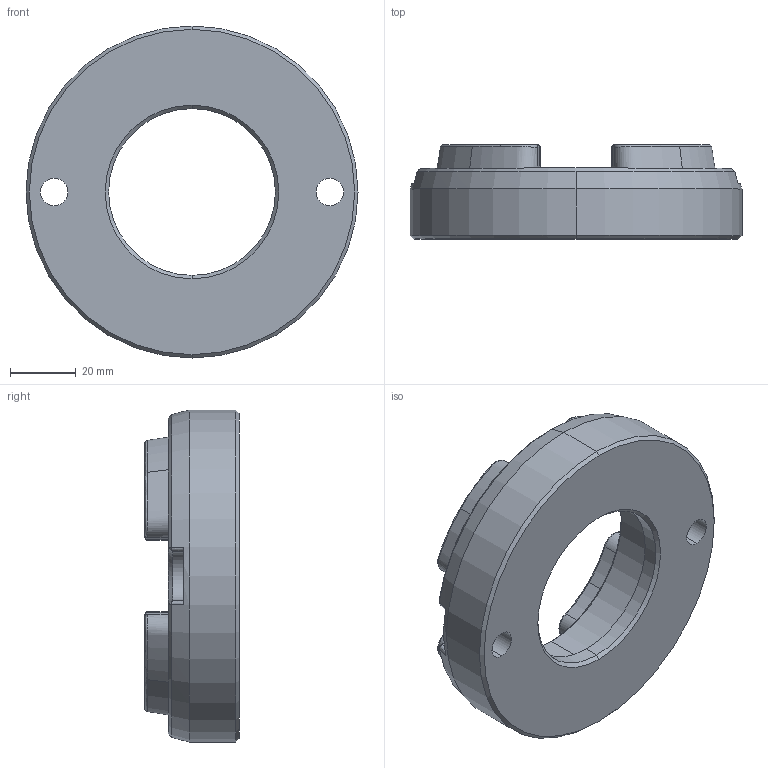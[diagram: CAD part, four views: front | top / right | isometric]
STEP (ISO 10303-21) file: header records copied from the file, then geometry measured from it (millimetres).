
FILE_DESCRIPTION (( 'STEP AP203' ), '1' );
FILE_NAME ('6521PG.STEP', '2020-03-19T12:29:59', ( '' ), ( '' ), 'SwSTEP 2.0', 'SolidWorks 2018', '' );
FILE_SCHEMA (( 'CONFIG_CONTROL_DESIGN' ));
Length unit declared in the file: inch
Products named in the file (1): 6521PG
Bounding box: 101.35 x 28.7 x 101.35 mm (x, y, z)
Volume: 123817.6 mm3; surface area: 24786.4 mm2
Topology: 1 solids, 2 shells, 215 faces, 547 edges, 349 vertices
Faces by surface type: plane 74, bspline 70, cylinder 36, torus 22, cone 13
Entity records: 12779 total; most frequent: CARTESIAN_POINT 7926, ORIENTED_EDGE 1094, DIRECTION 808, EDGE_CURVE 547, VERTEX_POINT 349, AXIS2_PLACEMENT_3D 275, LINE 258, VECTOR 258
